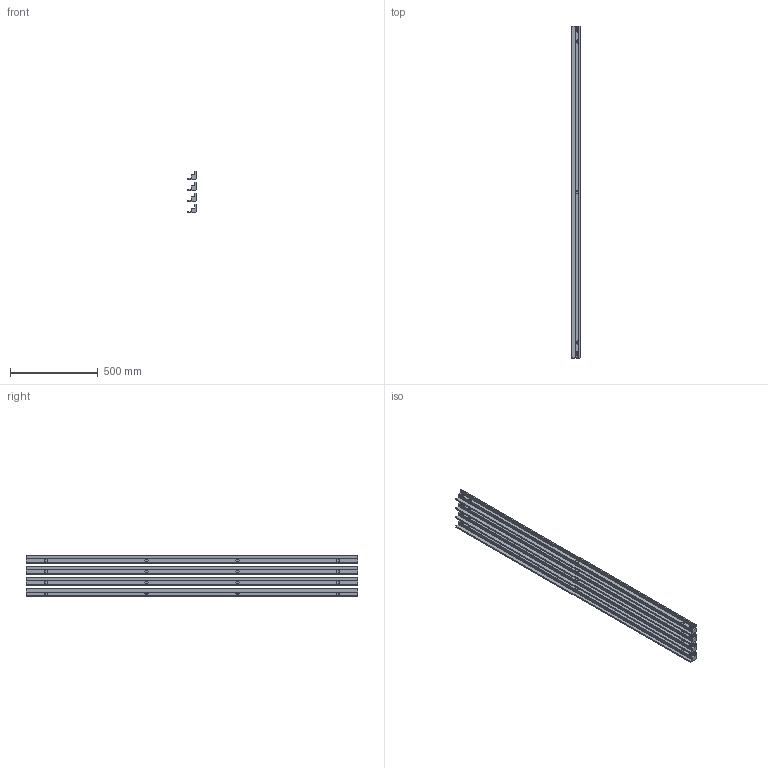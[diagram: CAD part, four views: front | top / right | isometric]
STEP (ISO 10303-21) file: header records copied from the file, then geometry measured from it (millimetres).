
FILE_DESCRIPTION (( 'STEP AP214' ), '1' );
FILE_NAME ('MTK200-4.STEP', '2024-05-21T15:52:28', ( '' ), ( '' ), 'SwSTEP 2.0', 'SolidWorks 2022', '' );
FILE_SCHEMA (( 'AUTOMOTIVE_DESIGN' ));
Length unit declared in the file: inch
Products named in the file (1): MTK200-4
Bounding box: 48.5 x 1896 x 239 mm (x, y, z)
Volume: 7898189.9 mm3; surface area: 1501276.5 mm2
Topology: 4 solids, 4 shells, 5160 faces, 11580 edges, 7720 vertices
Faces by surface type: plane 3816, cylinder 1344
Entity records: 143145 total; most frequent: DIRECTION 24590, CARTESIAN_POINT 24461, ORIENTED_EDGE 23160, EDGE_CURVE 11580, VECTOR 8892, LINE 8892, AXIS2_PLACEMENT_3D 7849, VERTEX_POINT 7720
